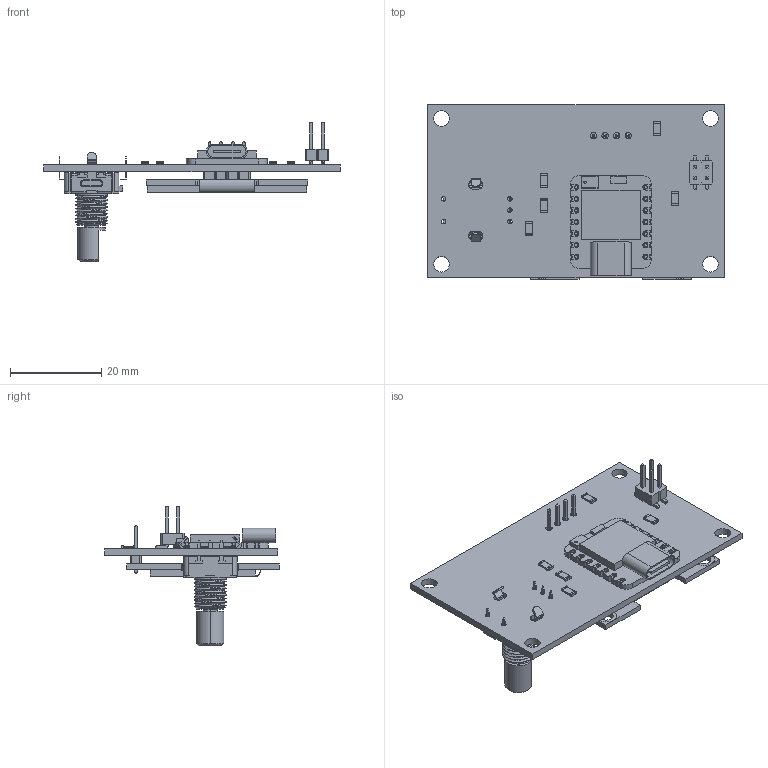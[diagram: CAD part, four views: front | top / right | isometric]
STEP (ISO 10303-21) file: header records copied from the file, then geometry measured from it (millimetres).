
FILE_DESCRIPTION(('KiCad electronic assembly'),'2;1');
FILE_NAME('Mainboard_Display.step','2025-05-28T14:42:17',('Pcbnew'),( 'Kicad'),'Open CASCADE STEP processor 7.8','KiCad to STEP converter' ,'Unknown');
FILE_SCHEMA(('AUTOMOTIVE_DESIGN { 1 0 10303 214 1 1 1 1 }'));
Length unit declared in the file: millimetre
Products named in the file (32): Mainboard_Display 1; Resistor-1206; Ceramic; Contacts; Contacts (Mirror #1); Overcoat; AZ-Delivery - OLED13 IIC; PinHeader_2x02_P2.54mm_Vertical_SMD; PEC11L-4115F-S0020; Seeed_XIAO-nRF52840_Sense; SoC_nRF_Sense; Mic_nRF_Sense; Antenna_nRF_Sense; XIAO_Generic; Board; USB; Contact; Contact Clones; Body007; Body008; Body009; Body010; Body011; Body012; Body013; Body014; Body015; Body016; Body017; Body018; Body019; Mainboard_Display_PCB
Assembly tree (35 placements, depth 5):
  Mainboard_Display 1
    Resistor-1206  x5
      Ceramic
      Contacts
      Contacts (Mirror #1)
      Overcoat
    AZ-Delivery - OLED13 IIC
    PinHeader_2x02_P2.54mm_Vertical_SMD
    PEC11L-4115F-S0020
    Seeed_XIAO-nRF52840_Sense
      SoC_nRF_Sense
      Mic_nRF_Sense
      Antenna_nRF_Sense
      XIAO_Generic
        Board
        USB
        Contact
        Contact Clones
          Body007
          Body008
          Body009
          Body010
          Body011
          Body012
          Body013
          Body014
          Body015
          Body016
          Body017
          Body018
          Body019
    Mainboard_Display_PCB
Bounding box: 65 x 38.28 x 30.7 mm (x, y, z)
Volume: 7871.9 mm3; surface area: 11960.1 mm2
Topology: 47 solids, 60 shells, 1372 faces, 3483 edges, 2276 vertices
Faces by surface type: plane 941, cylinder 364, cone 47, bspline 20
Full cylindrical faces by diameter (mm): 0.5 x1, 0.7 x14, 0.8 x42, 0.9 x4, 1 x5, 1.4 x4, 1.7 x4, 3 x4, 3.4 x4, 4.5 x8
Entity records: 44122 total; most frequent: CARTESIAN_POINT 10249, DIRECTION 6383, ORIENTED_EDGE 6382, EDGE_CURVE 3191, LINE 2281, VECTOR 2281, VERTEX_POINT 2085, AXIS2_PLACEMENT_3D 2051
